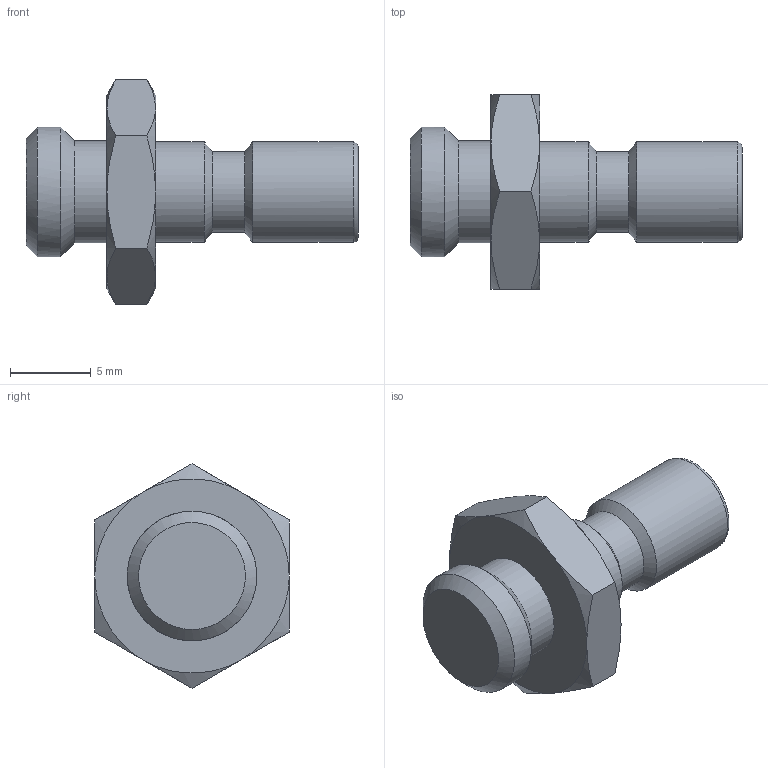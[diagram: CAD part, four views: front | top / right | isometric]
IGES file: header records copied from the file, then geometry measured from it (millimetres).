
Global section: file name: [01] MH-1P; native system: Autodesk Inventor 2014; preprocessor: unknown; author: kazuhiro.t; date: 20130805.152728; units: millimetre
Bounding box: 20.5 x 12 x 13.86 mm (x, y, z)
Volume: 920.3 mm3; surface area: 733.2 mm2
Topology: 1 solids, 1 shells, 32 faces, 65 edges, 37 vertices
Faces by surface type: bspline 32
